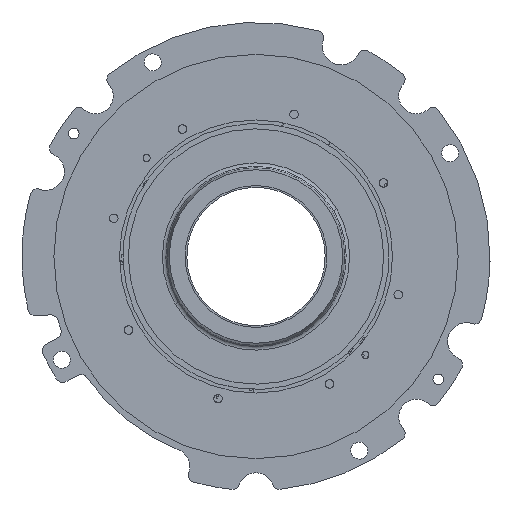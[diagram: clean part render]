
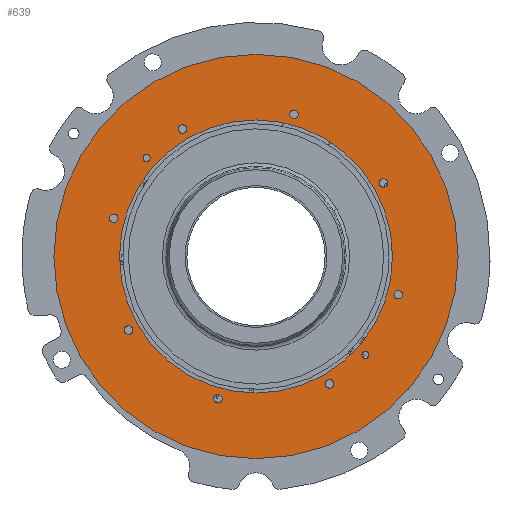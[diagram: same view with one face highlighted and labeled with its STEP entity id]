
A CAD part, front view. The second image highlights one B-rep face of the part: STEP entity #639.
In plain terms, the highlighted planar face has unit normal (0, -1, 0).
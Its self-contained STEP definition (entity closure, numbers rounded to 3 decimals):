
#154=CARTESIAN_POINT('',(0.,0.,0.));
#155=DIRECTION('',(0.,1.,0.));
#156=DIRECTION('',(0.,0.,1.));
#157=AXIS2_PLACEMENT_3D('',#154,#155,#156);
#159=CARTESIAN_POINT('',(0.,0.,0.));
#160=DIRECTION('',(0.,1.,0.));
#161=DIRECTION('',(0.,0.,-1.));
#162=AXIS2_PLACEMENT_3D('',#159,#160,#161);
#164=CARTESIAN_POINT('',(6.412,0.,-19.734));
#165=DIRECTION('',(0.,-1.,0.));
#166=DIRECTION('',(-1.,0.,0.));
#167=AXIS2_PLACEMENT_3D('',#164,#165,#166);
#169=CARTESIAN_POINT('',(6.412,0.,-19.734));
#170=DIRECTION('',(0.,-1.,0.));
#171=DIRECTION('',(1.,0.,0.));
#172=AXIS2_PLACEMENT_3D('',#169,#170,#171);
#174=CARTESIAN_POINT('',(-6.412,0.,19.734));
#175=DIRECTION('',(0.,-1.,0.));
#176=DIRECTION('',(-1.,0.,0.));
#177=AXIS2_PLACEMENT_3D('',#174,#175,#176);
#179=CARTESIAN_POINT('',(-6.412,0.,19.734));
#180=DIRECTION('',(0.,-1.,0.));
#181=DIRECTION('',(1.,0.,0.));
#182=AXIS2_PLACEMENT_3D('',#179,#180,#181);
#184=CARTESIAN_POINT('',(14.672,0.,14.672));
#185=DIRECTION('',(0.,-1.,0.));
#186=DIRECTION('',(-0.707,0.,0.707));
#187=AXIS2_PLACEMENT_3D('',#184,#185,#186);
#189=CARTESIAN_POINT('',(14.672,0.,14.672));
#190=DIRECTION('',(0.,-1.,0.));
#191=DIRECTION('',(0.707,0.,-0.707));
#192=AXIS2_PLACEMENT_3D('',#189,#190,#191);
#194=CARTESIAN_POINT('',(20.75,0.,0.));
#195=DIRECTION('',(0.,-1.,0.));
#196=DIRECTION('',(0.,0.,1.));
#197=AXIS2_PLACEMENT_3D('',#194,#195,#196);
#199=CARTESIAN_POINT('',(20.75,0.,0.));
#200=DIRECTION('',(0.,-1.,0.));
#201=DIRECTION('',(0.,0.,-1.));
#202=AXIS2_PLACEMENT_3D('',#199,#200,#201);
#204=CARTESIAN_POINT('',(14.672,0.,-14.672));
#205=DIRECTION('',(0.,-1.,0.));
#206=DIRECTION('',(0.707,0.,0.707));
#207=AXIS2_PLACEMENT_3D('',#204,#205,#206);
#209=CARTESIAN_POINT('',(14.672,0.,-14.672));
#210=DIRECTION('',(0.,-1.,0.));
#211=DIRECTION('',(-0.707,0.,-0.707));
#212=AXIS2_PLACEMENT_3D('',#209,#210,#211);
#214=CARTESIAN_POINT('',(0.,0.,-20.75));
#215=DIRECTION('',(0.,-1.,0.));
#216=DIRECTION('',(1.,0.,0.));
#217=AXIS2_PLACEMENT_3D('',#214,#215,#216);
#219=CARTESIAN_POINT('',(0.,0.,-20.75));
#220=DIRECTION('',(0.,-1.,0.));
#221=DIRECTION('',(-1.,0.,0.));
#222=AXIS2_PLACEMENT_3D('',#219,#220,#221);
#224=CARTESIAN_POINT('',(-14.672,0.,-14.672));
#225=DIRECTION('',(0.,-1.,0.));
#226=DIRECTION('',(0.707,0.,-0.707));
#227=AXIS2_PLACEMENT_3D('',#224,#225,#226);
#229=CARTESIAN_POINT('',(-14.672,0.,-14.672));
#230=DIRECTION('',(0.,-1.,0.));
#231=DIRECTION('',(-0.707,0.,0.707));
#232=AXIS2_PLACEMENT_3D('',#229,#230,#231);
#234=CARTESIAN_POINT('',(-20.75,0.,0.));
#235=DIRECTION('',(0.,-1.,0.));
#236=DIRECTION('',(0.,0.,-1.));
#237=AXIS2_PLACEMENT_3D('',#234,#235,#236);
#239=CARTESIAN_POINT('',(-20.75,0.,0.));
#240=DIRECTION('',(0.,-1.,0.));
#241=DIRECTION('',(0.,0.,1.));
#242=AXIS2_PLACEMENT_3D('',#239,#240,#241);
#244=CARTESIAN_POINT('',(-14.672,0.,14.672));
#245=DIRECTION('',(0.,-1.,0.));
#246=DIRECTION('',(-0.707,0.,-0.707));
#247=AXIS2_PLACEMENT_3D('',#244,#245,#246);
#249=CARTESIAN_POINT('',(-14.672,0.,14.672));
#250=DIRECTION('',(0.,-1.,0.));
#251=DIRECTION('',(0.707,0.,0.707));
#252=AXIS2_PLACEMENT_3D('',#249,#250,#251);
#254=CARTESIAN_POINT('',(0.,0.,20.75));
#255=DIRECTION('',(0.,-1.,0.));
#256=DIRECTION('',(-1.,0.,0.));
#257=AXIS2_PLACEMENT_3D('',#254,#255,#256);
#259=CARTESIAN_POINT('',(0.,0.,20.75));
#260=DIRECTION('',(0.,-1.,0.));
#261=DIRECTION('',(1.,0.,0.));
#262=AXIS2_PLACEMENT_3D('',#259,#260,#261);
#264=CARTESIAN_POINT('',(0.,0.,0.));
#265=DIRECTION('',(0.,-1.,0.));
#266=DIRECTION('',(0.,0.,-1.));
#267=AXIS2_PLACEMENT_3D('',#264,#265,#266);
#269=CARTESIAN_POINT('',(0.,0.,0.));
#270=DIRECTION('',(0.,-1.,0.));
#271=DIRECTION('',(0.,0.,1.));
#272=AXIS2_PLACEMENT_3D('',#269,#270,#271);
#410=CARTESIAN_POINT('',(0.,0.,28.5));
#411=VERTEX_POINT('',#410);
#412=CARTESIAN_POINT('',(0.,0.,-28.5));
#413=VERTEX_POINT('',#412);
#414=CARTESIAN_POINT('',(5.912,0.,-19.734));
#415=CARTESIAN_POINT('',(6.912,0.,-19.734));
#416=VERTEX_POINT('',#414);
#417=VERTEX_POINT('',#415);
#418=CARTESIAN_POINT('',(-6.912,0.,19.734));
#419=CARTESIAN_POINT('',(-5.912,0.,19.734));
#420=VERTEX_POINT('',#418);
#421=VERTEX_POINT('',#419);
#422=CARTESIAN_POINT('',(14.248,0.,15.097));
#423=CARTESIAN_POINT('',(15.097,0.,14.248));
#424=VERTEX_POINT('',#422);
#425=VERTEX_POINT('',#423);
#426=CARTESIAN_POINT('',(20.75,0.,0.6));
#427=CARTESIAN_POINT('',(20.75,0.,-0.6));
#428=VERTEX_POINT('',#426);
#429=VERTEX_POINT('',#427);
#430=CARTESIAN_POINT('',(15.097,0.,-14.248));
#431=CARTESIAN_POINT('',(14.248,0.,-15.097));
#432=VERTEX_POINT('',#430);
#433=VERTEX_POINT('',#431);
#434=CARTESIAN_POINT('',(0.6,0.,-20.75));
#435=CARTESIAN_POINT('',(-0.6,0.,-20.75));
#436=VERTEX_POINT('',#434);
#437=VERTEX_POINT('',#435);
#438=CARTESIAN_POINT('',(-14.248,0.,-15.097));
#439=CARTESIAN_POINT('',(-15.097,0.,-14.248));
#440=VERTEX_POINT('',#438);
#441=VERTEX_POINT('',#439);
#442=CARTESIAN_POINT('',(-20.75,0.,-0.6));
#443=CARTESIAN_POINT('',(-20.75,0.,0.6));
#444=VERTEX_POINT('',#442);
#445=VERTEX_POINT('',#443);
#446=CARTESIAN_POINT('',(-15.097,0.,14.248));
#447=CARTESIAN_POINT('',(-14.248,0.,15.097));
#448=VERTEX_POINT('',#446);
#449=VERTEX_POINT('',#447);
#450=CARTESIAN_POINT('',(-0.6,0.,20.75));
#451=CARTESIAN_POINT('',(0.6,0.,20.75));
#452=VERTEX_POINT('',#450);
#453=VERTEX_POINT('',#451);
#454=CARTESIAN_POINT('',(0.,0.,-19.25));
#455=CARTESIAN_POINT('',(0.,0.,19.25));
#456=VERTEX_POINT('',#454);
#457=VERTEX_POINT('',#455);
#564=CARTESIAN_POINT('',(0.,0.,0.));
#565=DIRECTION('',(0.,1.,0.));
#566=DIRECTION('',(1.,0.,0.));
#567=AXIS2_PLACEMENT_3D('',#564,#565,#566);
#568=PLANE('',#567);
#569=ORIENTED_EDGE('',*,*,#546,.T.);
#570=ORIENTED_EDGE('',*,*,#558,.T.);
#571=EDGE_LOOP('',(#569,#570));
#572=FACE_OUTER_BOUND('',#571,.F.);
#574=ORIENTED_EDGE('',*,*,#573,.T.);
#576=ORIENTED_EDGE('',*,*,#575,.T.);
#577=EDGE_LOOP('',(#574,#576));
#578=FACE_BOUND('',#577,.F.);
#580=ORIENTED_EDGE('',*,*,#579,.T.);
#582=ORIENTED_EDGE('',*,*,#581,.T.);
#583=EDGE_LOOP('',(#580,#582));
#584=FACE_BOUND('',#583,.F.);
#586=ORIENTED_EDGE('',*,*,#585,.T.);
#588=ORIENTED_EDGE('',*,*,#587,.T.);
#589=EDGE_LOOP('',(#586,#588));
#590=FACE_BOUND('',#589,.F.);
#592=ORIENTED_EDGE('',*,*,#591,.T.);
#594=ORIENTED_EDGE('',*,*,#593,.T.);
#595=EDGE_LOOP('',(#592,#594));
#596=FACE_BOUND('',#595,.F.);
#598=ORIENTED_EDGE('',*,*,#597,.T.);
#600=ORIENTED_EDGE('',*,*,#599,.T.);
#601=EDGE_LOOP('',(#598,#600));
#602=FACE_BOUND('',#601,.F.);
#604=ORIENTED_EDGE('',*,*,#603,.T.);
#606=ORIENTED_EDGE('',*,*,#605,.T.);
#607=EDGE_LOOP('',(#604,#606));
#608=FACE_BOUND('',#607,.F.);
#610=ORIENTED_EDGE('',*,*,#609,.T.);
#612=ORIENTED_EDGE('',*,*,#611,.T.);
#613=EDGE_LOOP('',(#610,#612));
#614=FACE_BOUND('',#613,.F.);
#616=ORIENTED_EDGE('',*,*,#615,.T.);
#618=ORIENTED_EDGE('',*,*,#617,.T.);
#619=EDGE_LOOP('',(#616,#618));
#620=FACE_BOUND('',#619,.F.);
#622=ORIENTED_EDGE('',*,*,#621,.T.);
#624=ORIENTED_EDGE('',*,*,#623,.T.);
#625=EDGE_LOOP('',(#622,#624));
#626=FACE_BOUND('',#625,.F.);
#628=ORIENTED_EDGE('',*,*,#627,.T.);
#630=ORIENTED_EDGE('',*,*,#629,.T.);
#631=EDGE_LOOP('',(#628,#630));
#632=FACE_BOUND('',#631,.F.);
#634=ORIENTED_EDGE('',*,*,#633,.T.);
#636=ORIENTED_EDGE('',*,*,#635,.T.);
#637=EDGE_LOOP('',(#634,#636));
#638=FACE_BOUND('',#637,.F.);
#639=ADVANCED_FACE('',(#572,#578,#584,#590,#596,#602,#608,#614,#620,#626,#632,
#638),#568,.F.);
#158=CIRCLE('',#157,28.5);
#163=CIRCLE('',#162,28.5);
#168=CIRCLE('',#167,0.5);
#173=CIRCLE('',#172,0.5);
#178=CIRCLE('',#177,0.5);
#183=CIRCLE('',#182,0.5);
#188=CIRCLE('',#187,0.6);
#193=CIRCLE('',#192,0.6);
#198=CIRCLE('',#197,0.6);
#203=CIRCLE('',#202,0.6);
#208=CIRCLE('',#207,0.6);
#213=CIRCLE('',#212,0.6);
#218=CIRCLE('',#217,0.6);
#223=CIRCLE('',#222,0.6);
#228=CIRCLE('',#227,0.6);
#233=CIRCLE('',#232,0.6);
#238=CIRCLE('',#237,0.6);
#243=CIRCLE('',#242,0.6);
#248=CIRCLE('',#247,0.6);
#253=CIRCLE('',#252,0.6);
#258=CIRCLE('',#257,0.6);
#263=CIRCLE('',#262,0.6);
#268=CIRCLE('',#267,19.25);
#273=CIRCLE('',#272,19.25);
#546=EDGE_CURVE('',#411,#413,#158,.T.);
#558=EDGE_CURVE('',#413,#411,#163,.T.);
#573=EDGE_CURVE('',#416,#417,#168,.T.);
#575=EDGE_CURVE('',#417,#416,#173,.T.);
#579=EDGE_CURVE('',#420,#421,#178,.T.);
#581=EDGE_CURVE('',#421,#420,#183,.T.);
#585=EDGE_CURVE('',#424,#425,#188,.T.);
#587=EDGE_CURVE('',#425,#424,#193,.T.);
#591=EDGE_CURVE('',#428,#429,#198,.T.);
#593=EDGE_CURVE('',#429,#428,#203,.T.);
#597=EDGE_CURVE('',#432,#433,#208,.T.);
#599=EDGE_CURVE('',#433,#432,#213,.T.);
#603=EDGE_CURVE('',#436,#437,#218,.T.);
#605=EDGE_CURVE('',#437,#436,#223,.T.);
#609=EDGE_CURVE('',#440,#441,#228,.T.);
#611=EDGE_CURVE('',#441,#440,#233,.T.);
#615=EDGE_CURVE('',#444,#445,#238,.T.);
#617=EDGE_CURVE('',#445,#444,#243,.T.);
#621=EDGE_CURVE('',#448,#449,#248,.T.);
#623=EDGE_CURVE('',#449,#448,#253,.T.);
#627=EDGE_CURVE('',#452,#453,#258,.T.);
#629=EDGE_CURVE('',#453,#452,#263,.T.);
#633=EDGE_CURVE('',#456,#457,#268,.T.);
#635=EDGE_CURVE('',#457,#456,#273,.T.);
